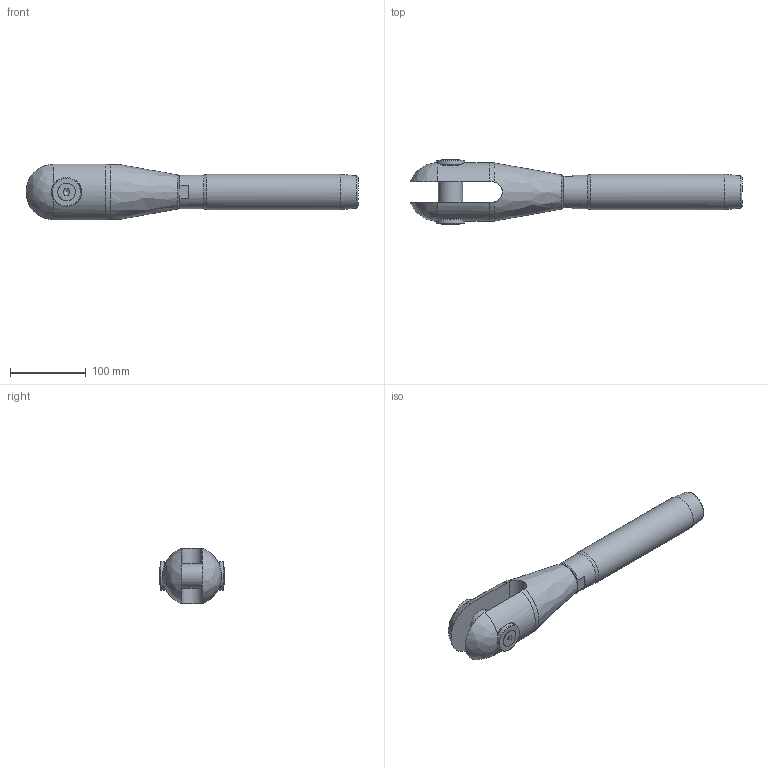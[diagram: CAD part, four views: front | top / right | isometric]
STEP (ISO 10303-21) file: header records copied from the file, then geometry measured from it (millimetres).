
FILE_DESCRIPTION(/* description */ (''),/* implementation_level */ '2;1');
FILE_NAME(/* name */ 'MAC-R 22_1,4418',/* time_stamp */ '2023-05-23T17:52:11+02:00',/* author */ (''),/* organization */ (''),/* preprocessor_version */ 'ST-DEVELOPER v16.5',/* originating_system */ 'Rhino 7.22',/* authorisation */ '');
FILE_SCHEMA (('CONFIG_CONTROL_DESIGN'));
Length unit declared in the file: millimetre
Products named in the file (1): Document
Bounding box: 439.07 x 85.7 x 73.18 mm (x, y, z)
Volume: 945082.5 mm3; surface area: 129220.3 mm2
Topology: 7 solids, 7 shells, 88 faces, 246 edges, 171 vertices
Faces by surface type: plane 36, bspline 28, cylinder 24
Full cylindrical faces by diameter (mm): 10.106 x2, 12 x2, 12.5 x2, 23.12 x2, 32 x1, 32.752 x1, 34 x2, 36 x1, 38 x2, 44.5 x1, 46.8 x1
Entity records: 3526 total; most frequent: CARTESIAN_POINT 1963, ORIENTED_EDGE 482, EDGE_CURVE 241, VERTEX_POINT 171, EDGE_LOOP 100, B_SPLINE_CURVE_WITH_KNOTS 97, ADVANCED_FACE 88, FACE_OUTER_BOUND 88
